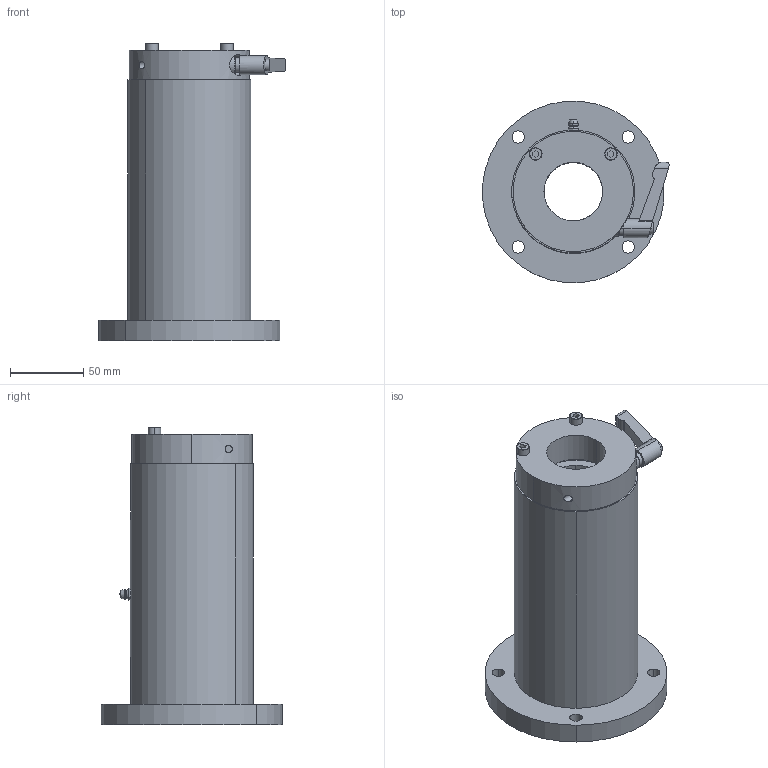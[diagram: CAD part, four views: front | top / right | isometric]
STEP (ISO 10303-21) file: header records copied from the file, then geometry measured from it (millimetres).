
FILE_DESCRIPTION (( 'STEP AP214' ), '1' );
FILE_NAME ('LFW40-OH-CS.STEP', '2023-06-27T02:07:46', ( '' ), ( '' ), 'SwSTEP 2.0', 'SolidWorks 2019', '' );
FILE_SCHEMA (( 'AUTOMOTIVE_DESIGN' ));
Length unit declared in the file: millimetre
Products named in the file (3): “ÁSCK4020SS-S5.5; LFW40-OH-CS; LFW40-OH
Assembly tree (2 placements, depth 2):
  LFW40-OH-CS
    LFW40-OH
    “ÁSCK4020SS-S5.5
Bounding box: 127.16 x 123.53 x 203 mm (x, y, z)
Volume: 919889.9 mm3; surface area: 130663.3 mm2
Topology: 4 solids, 10 shells, 224 faces, 539 edges, 341 vertices
Faces by surface type: cylinder 80, plane 65, bspline 47, cone 20, torus 8, sphere 4
Entity records: 9761 total; most frequent: CARTESIAN_POINT 2220, DIRECTION 1125, ORIENTED_EDGE 1074, EDGE_CURVE 537, AXIS2_PLACEMENT_3D 471, VERTEX_POINT 340, CIRCLE 289, EDGE_LOOP 273
